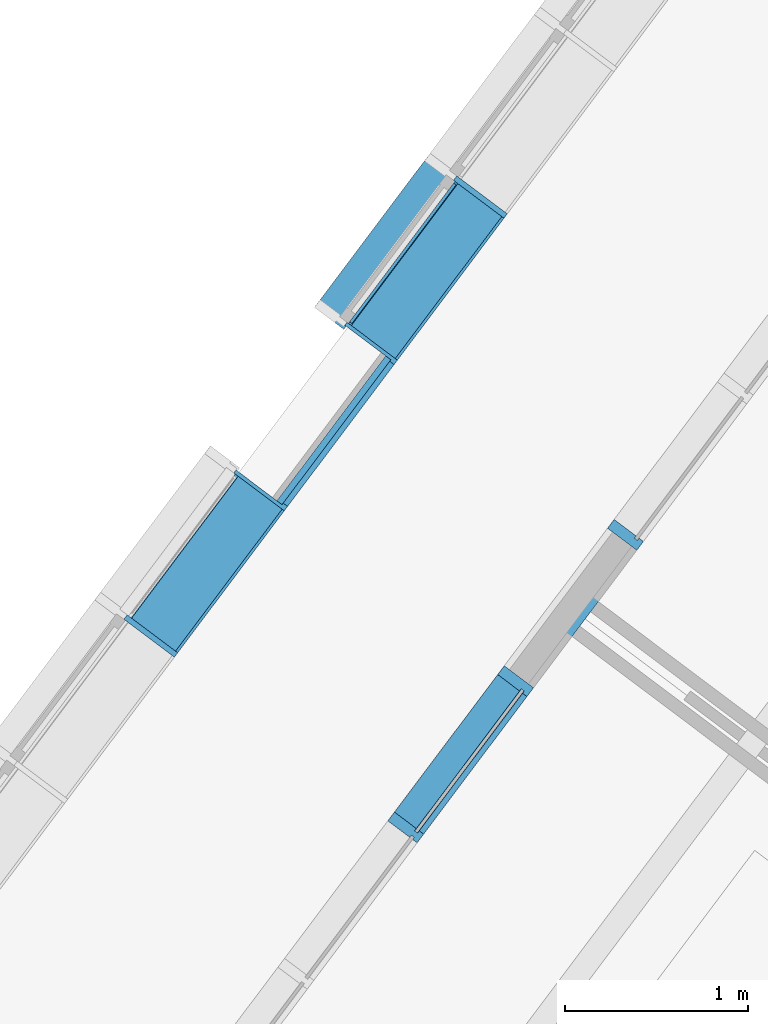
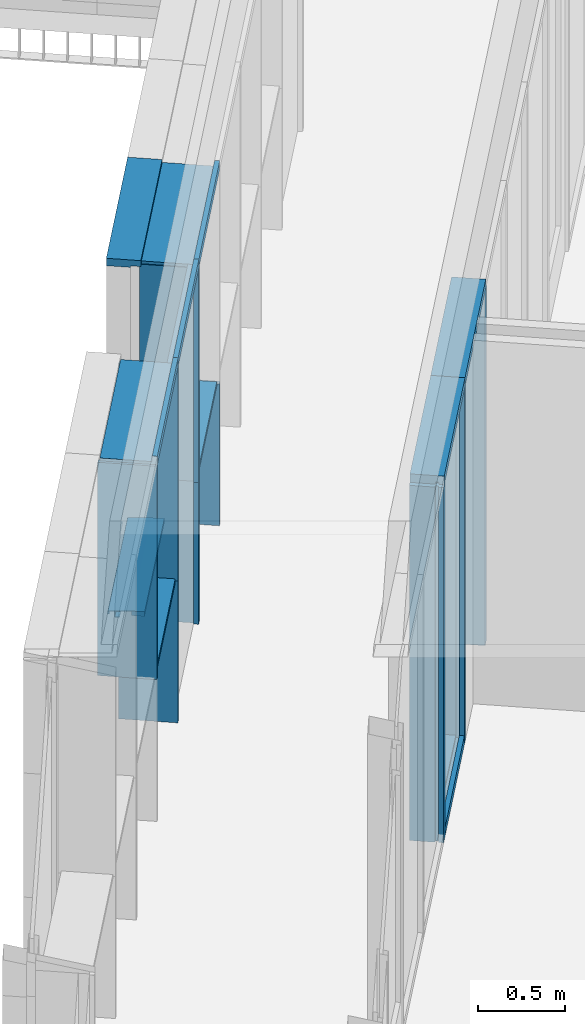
# One storey, part 47 of 243: 19 members, 3 elements without a shape of their own.
"""IFC2X3 building model written with IfcOpenShell, lengths in metres."""

from ifc_helpers import new_model, entity, si_unit, converted_unit, derived_unit, direction, frame, frame_2d, origin, place, context, subcontext, project, spatial, polyline, circle_curve, parameter, trimmed, segment, composite_curve, rectangle, outline, extrude, source, transform, mapped, material, type_object, type_shapes, element, aggregate, save


model = new_model("IFC2X3")

# Units and contexts
model_context = context("Model", 3, precision=1e-05, world=origin(), true_north=direction((6.123031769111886e-17, 1.0)))
body_context = subcontext(model_context, "Body", "Model", "MODEL_VIEW")
ifc_project = project(units=[si_unit("LENGTHUNIT", "METRE"), si_unit("AREAUNIT", "SQUARE_METRE"), si_unit("VOLUMEUNIT", "CUBIC_METRE"), converted_unit("PLANEANGLEUNIT", "DEGREE", entity("IfcRatioMeasure", 0.017453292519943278), si_unit("PLANEANGLEUNIT", "RADIAN"), dimensions=[0, 0, 0, 0, 0, 0, 0]), si_unit("MASSUNIT", "GRAM", prefix="KILO"), derived_unit("MASSDENSITYUNIT", [(si_unit("MASSUNIT", "GRAM", prefix="KILO"), 1), (si_unit("LENGTHUNIT", "METRE"), -3)]), derived_unit("IONCONCENTRATIONUNIT", [(si_unit("MASSUNIT", "GRAM", prefix="KILO"), 1), (si_unit("LENGTHUNIT", "METRE"), -3)]), derived_unit("MOMENTOFINERTIAUNIT", [(si_unit("LENGTHUNIT", "METRE"), 4)]), si_unit("TIMEUNIT", "SECOND"), si_unit("FREQUENCYUNIT", "HERTZ"), si_unit("THERMODYNAMICTEMPERATUREUNIT", "DEGREE_CELSIUS"), derived_unit("THERMALTRANSMITTANCEUNIT", [(si_unit("MASSUNIT", "GRAM", prefix="KILO"), 1), (si_unit("THERMODYNAMICTEMPERATUREUNIT", "KELVIN"), -1), (si_unit("TIMEUNIT", "SECOND"), -3)]), derived_unit("THERMALCONDUCTANCEUNIT", [(si_unit("MASSUNIT", "GRAM", prefix="KILO"), 1), (si_unit("THERMODYNAMICTEMPERATUREUNIT", "KELVIN"), -1), (si_unit("TIMEUNIT", "SECOND"), -3), (si_unit("LENGTHUNIT", "METRE"), 1)]), derived_unit("VOLUMETRICFLOWRATEUNIT", [(si_unit("LENGTHUNIT", "METRE"), 3), (si_unit("TIMEUNIT", "SECOND"), -1)]), derived_unit("MASSFLOWRATEUNIT", [(si_unit("MASSUNIT", "GRAM", prefix="KILO"), 1), (si_unit("TIMEUNIT", "SECOND"), -1)]), derived_unit("ROTATIONALFREQUENCYUNIT", [(si_unit("TIMEUNIT", "SECOND"), -1)]), si_unit("ELECTRICCURRENTUNIT", "AMPERE"), si_unit("ELECTRICVOLTAGEUNIT", "VOLT"), si_unit("POWERUNIT", "WATT"), si_unit("FORCEUNIT", "NEWTON", prefix="KILO"), si_unit("ILLUMINANCEUNIT", "LUX"), si_unit("LUMINOUSFLUXUNIT", "LUMEN"), si_unit("LUMINOUSINTENSITYUNIT", "CANDELA"), derived_unit("USERDEFINED", [(si_unit("MASSUNIT", "GRAM", prefix="KILO"), -1), (si_unit("LENGTHUNIT", "METRE"), -2), (si_unit("TIMEUNIT", "SECOND"), 3), (si_unit("LUMINOUSFLUXUNIT", "LUMEN"), 1)]), derived_unit("USERDEFINED", [(si_unit("MASSUNIT", "GRAM", prefix="KILO"), 1), (si_unit("TIMEUNIT", "SECOND"), -3), (si_unit("LENGTHUNIT", "METRE"), 3), (si_unit("ELECTRICCURRENTUNIT", "AMPERE"), -2)]), derived_unit("SOUNDPOWERUNIT", [(si_unit("MASSUNIT", "GRAM", prefix="KILO"), 1), (si_unit("TIMEUNIT", "SECOND"), -3), (si_unit("LENGTHUNIT", "METRE"), 2)]), derived_unit("SOUNDPRESSUREUNIT", [(si_unit("MASSUNIT", "GRAM", prefix="KILO"), 1), (si_unit("LENGTHUNIT", "METRE"), -1), (si_unit("TIMEUNIT", "SECOND"), -2)]), derived_unit("LINEARVELOCITYUNIT", [(si_unit("LENGTHUNIT", "METRE"), 1), (si_unit("TIMEUNIT", "SECOND"), -1)]), si_unit("PRESSUREUNIT", "PASCAL"), derived_unit("USERDEFINED", [(si_unit("MASSUNIT", "GRAM", prefix="KILO"), 1), (si_unit("LENGTHUNIT", "METRE"), -2), (si_unit("TIMEUNIT", "SECOND"), -2)]), derived_unit("LINEARFORCEUNIT", [(si_unit("MASSUNIT", "GRAM", prefix="KILO"), 1), (si_unit("TIMEUNIT", "SECOND"), -2)]), derived_unit("PLANARFORCEUNIT", [(si_unit("MASSUNIT", "GRAM", prefix="KILO"), 1), (si_unit("LENGTHUNIT", "METRE"), -1), (si_unit("TIMEUNIT", "SECOND"), -2)]), derived_unit("SPECIFICHEATCAPACITYUNIT", [(si_unit("THERMODYNAMICTEMPERATUREUNIT", "KELVIN"), -1), (si_unit("LENGTHUNIT", "METRE"), 2), (si_unit("TIMEUNIT", "SECOND"), -2)]), derived_unit("HEATINGVALUEUNIT", [(si_unit("LENGTHUNIT", "METRE"), 2), (si_unit("TIMEUNIT", "SECOND"), -2)]), derived_unit("VAPORPERMEABILITYUNIT", [(si_unit("LENGTHUNIT", "METRE"), -1), (si_unit("TIMEUNIT", "SECOND"), 1)]), derived_unit("DYNAMICVISCOSITYUNIT", [(si_unit("MASSUNIT", "GRAM", prefix="KILO"), 1), (si_unit("TIMEUNIT", "SECOND"), -1), (si_unit("LENGTHUNIT", "METRE"), -1)]), derived_unit("THERMALEXPANSIONCOEFFICIENTUNIT", [(si_unit("THERMODYNAMICTEMPERATUREUNIT", "KELVIN"), -1)]), derived_unit("MODULUSOFELASTICITYUNIT", [(si_unit("MASSUNIT", "GRAM", prefix="KILO"), 1), (si_unit("LENGTHUNIT", "METRE"), -1), (si_unit("TIMEUNIT", "SECOND"), -2)]), derived_unit("ISOTHERMALMOISTURECAPACITYUNIT", [(si_unit("LENGTHUNIT", "METRE"), 3), (si_unit("MASSUNIT", "GRAM", prefix="KILO"), -1)]), derived_unit("MOISTUREDIFFUSIVITYUNIT", [(si_unit("TIMEUNIT", "SECOND"), -1), (si_unit("LENGTHUNIT", "METRE"), 2)])], contexts=[model_context])

# Site, building, storey
site_placement = place(None, frame((0.0, 0.0, 235.0), z_axis=(0.0, 0.0, 1.0), x_axis=(-0.7996477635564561, 0.6004693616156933, 0.0)))
site = spatial("IfcSite", under=ifc_project, at=site_placement, Name="Default", CompositionType="ELEMENT")
building_placement = place(site_placement, origin())
building = spatial("IfcBuilding", under=site, at=building_placement, CompositionType="ELEMENT")
storey_placement = place(building_placement, origin())
storey = spatial("IfcBuildingStorey", under=building, at=storey_placement, Name="P0- Escola", CompositionType="ELEMENT", Elevation=0.0)

# Curtain wall, members
curtain_wall_type_1 = type_object("IfcCurtainWallType", Name="Muro cortina:MC- INT- a1", PredefinedType="NOTDEFINED")
curtain_wall_1_placement = place(storey_placement, origin())
curtain_wall_1 = element("IfcCurtainWall", 1, at=curtain_wall_1_placement, inside=storey, type_object=curtain_wall_type_1, Name="Muro cortina:MC- INT- a1", ObjectType="Muro cortina:MC- INT- a1")
ifc_material_1 = material(Name="_Fusta massisa- T1")
member_type_1 = type_object("IfcMemberType", Name="Montante rectangular:MC- Fusta- 20x6 cm- Esquerra", PredefinedType="MULLION", material=ifc_material_1)
shared_shape_1 = source(origin(), body_context, "Body", "SweptSolid", [
    extrude(outline(polyline([(-0.07000000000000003, -0.01875000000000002), (-0.04000000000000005, -0.01875000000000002), (-0.04000000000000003, -0.0037500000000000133), (-0.020000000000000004, -0.0037500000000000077), (-0.02, -0.018750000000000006), (0.13, -0.018749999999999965), (0.12999999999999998, 0.04125000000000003), (-0.06999999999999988, 0.04124999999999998), (-0.07000000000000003, -0.01875000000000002)])), frame((-0.01124999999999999, -0.03, -2.5050000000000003), z_axis=(0.0, 0.0, 1.0), x_axis=(0.0, -1.0, 0.0)), (0.0, 0.0, 1.0), 2.5050000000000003),
])
type_shapes(member_type_1, [shared_shape_1])
member_1_placement = place(curtain_wall_1_placement, frame((47.32014768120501, -29.415189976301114, 0.0), z_axis=(0.0, 0.0, -1.0), x_axis=(0.0, -1.0, 0.0)))
member_1 = element("IfcMember", 2, at=member_1_placement, type_object=member_type_1, material=ifc_material_1, Name="Montante rectangular:MC- Fusta- 20x6 cm- Esquerra", ObjectType="Montante rectangular:MC- Fusta- 20x6 cm- Esquerra", context=body_context, shape_type="MappedRepresentation", body=[
    mapped(shared_shape_1, transform((0.0, 0.0, 0.0), scale=1.0)),
])
member_type_2 = type_object("IfcMemberType", Name="Montante rectangular:MC- Fusta- 20x6 cm- Neutre", PredefinedType="MULLION", material=ifc_material_1)
shared_shape_2 = source(origin(), body_context, "Body", "SweptSolid", [
    extrude(rectangle(XDim=0.2, YDim=0.060000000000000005, at=frame_2d((-4.85722573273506e-17, -3.469446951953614e-18), x_axis=(1.0, 0.0))), frame((-0.03, -0.060000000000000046, -1.0), z_axis=(0.0, 0.0, 1.0), x_axis=(0.0, -1.0, 0.0)), (0.0, 0.0, 1.0), 0.9999999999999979),
])
type_shapes(member_type_2, [shared_shape_2])
member_2_placement = place(curtain_wall_1_placement, frame((47.32014768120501, -30.41518997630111, 2.565), z_axis=(0.0, -1.0, 0.0), x_axis=(0.0, 0.0, 1.0)))
member_2 = element("IfcMember", 3, at=member_2_placement, type_object=member_type_2, material=ifc_material_1, Name="Montante rectangular:MC- Fusta- 20x6 cm- Neutre", ObjectType="Montante rectangular:MC- Fusta- 20x6 cm- Neutre", context=body_context, shape_type="MappedRepresentation", body=[
    mapped(shared_shape_2, transform((0.0, 0.0, 0.0), scale=1.0)),
])
member_type_3 = type_object("IfcMemberType", Name="Montante rectangular:MC- Fusta- 20x6 cm- Dreta", PredefinedType="MULLION", material=ifc_material_1)
shared_shape_3 = source(origin(), body_context, "Body", "SweptSolid", [
    extrude(outline(polyline([(-0.07000000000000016, -0.041249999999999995), (0.13000000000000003, -0.041249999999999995), (0.13000000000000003, 0.01875), (-0.019999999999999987, 0.01875), (-0.019999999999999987, 0.00375), (-0.04000000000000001, 0.00375), (-0.03999999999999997, 0.01875), (-0.06999999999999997, 0.01875), (-0.07000000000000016, -0.041249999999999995)])), frame((0.011250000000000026, -0.02999999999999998, -2.5050000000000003), z_axis=(0.0, 0.0, 1.0), x_axis=(0.0, -1.0, 0.0)), (0.0, 0.0, 1.0), 2.5050000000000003),
])
type_shapes(member_type_3, [shared_shape_3])
member_3_placement = place(curtain_wall_1_placement, frame((47.32014768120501, -30.41518997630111, 0.0), z_axis=(0.0, 0.0, -1.0), x_axis=(0.0, -1.0, 0.0)))
member_3 = element("IfcMember", 4, at=member_3_placement, type_object=member_type_3, material=ifc_material_1, Name="Montante rectangular:MC- Fusta- 20x6 cm- Dreta", ObjectType="Montante rectangular:MC- Fusta- 20x6 cm- Dreta", context=body_context, shape_type="MappedRepresentation", body=[
    mapped(shared_shape_3, transform((0.0, 0.0, 0.0), scale=1.0)),
])
member_type_4 = type_object("IfcMemberType", Name="Montante rectangular:MC- Fusta- 20x6 cm- Esquerra", PredefinedType="MULLION", material=ifc_material_1)
shared_shape_4 = source(origin(), body_context, "Body", "SweptSolid", [
    extrude(outline(polyline([(-0.07000000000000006, -0.01875000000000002), (-0.04000000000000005, -0.01875000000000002), (-0.04000000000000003, -0.0037500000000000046), (-0.02, -0.0037500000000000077), (-0.019999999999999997, -0.018750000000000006), (0.13, -0.018749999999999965), (0.12999999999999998, 0.04125000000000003), (-0.06999999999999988, 0.04124999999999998), (-0.07000000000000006, -0.01875000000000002)])), frame((-0.041249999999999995, -0.029999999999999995, -1.0), z_axis=(0.0, 0.0, 1.0), x_axis=(0.0, -1.0, 0.0)), (0.0, 0.0, 1.0), 0.9999999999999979),
])
type_shapes(member_type_4, [shared_shape_4])
member_4_placement = place(curtain_wall_1_placement, frame((47.32014768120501, -29.415189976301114, 2.565), z_axis=(0.0, -1.0, 0.0), x_axis=(0.0, 0.0, 1.0)))
member_4 = element("IfcMember", 5, at=member_4_placement, type_object=member_type_4, material=ifc_material_1, Name="Montante rectangular:MC- Fusta- 20x6 cm- Esquerra", ObjectType="Montante rectangular:MC- Fusta- 20x6 cm- Esquerra", context=body_context, shape_type="MappedRepresentation", body=[
    mapped(shared_shape_4, transform((0.0, 0.0, 0.0), scale=1.0)),
])
member_type_5 = type_object("IfcMemberType", Name="Montante rectangular:MC- Fusta- 20x6 cm- Centre", PredefinedType="MULLION", material=ifc_material_1)
shared_shape_5 = source(origin(), body_context, "Body", "SweptSolid", [
    extrude(outline(polyline([(-0.06000000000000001, -0.030000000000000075), (-0.03, -0.030000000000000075), (-0.029999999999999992, -0.015000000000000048), (-0.009999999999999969, -0.01499999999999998), (-0.009999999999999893, -0.030000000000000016), (0.14000000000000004, -0.029999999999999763), (0.13999999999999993, 0.030000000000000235), (-0.010000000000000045, 0.02999999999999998), (-0.01000000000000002, 0.014999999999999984), (-0.030000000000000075, 0.014999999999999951), (-0.03000000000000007, 0.029999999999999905), (-0.059999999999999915, 0.029999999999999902), (-0.06000000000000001, -0.030000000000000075)])), frame((0.0, -0.019999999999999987, -2.505000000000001), z_axis=(0.0, 0.0, 1.0), x_axis=(0.0, -1.0, 0.0)), (0.0, 0.0, 1.0), 2.5050000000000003),
])
type_shapes(member_type_5, [shared_shape_5])
member_5_placement = place(curtain_wall_1_placement, frame((47.32014768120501, -28.415189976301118, 0.0), z_axis=(0.0, 0.0, -1.0), x_axis=(0.0, -1.0, 0.0)))
member_5 = element("IfcMember", 6, at=member_5_placement, type_object=member_type_5, material=ifc_material_1, Name="Montante rectangular:MC- Fusta- 20x6 cm- Centre", ObjectType="Montante rectangular:MC- Fusta- 20x6 cm- Centre", context=body_context, shape_type="MappedRepresentation", body=[
    mapped(shared_shape_5, transform((0.0, 0.0, 0.0), scale=1.0)),
])
member_type_6 = type_object("IfcMemberType", Name="Montante rectangular:MC- Fusta- 20x6 cm- Inferior", PredefinedType="MULLION", material=ifc_material_1)
shared_shape_6 = source(origin(), body_context, "Body", "SweptSolid", [
    extrude(outline(polyline([(-0.06999999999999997, -0.018750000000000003), (-0.039999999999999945, -0.018750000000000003), (-0.03999999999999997, -0.003750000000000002), (-0.019999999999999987, -0.0037500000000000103), (-0.019999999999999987, -0.018750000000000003), (0.13000000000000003, -0.018750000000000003), (0.13000000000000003, 0.041249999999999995), (-0.07000000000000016, 0.041249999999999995), (-0.06999999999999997, -0.018750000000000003)])), frame((-0.041249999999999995, -0.02999999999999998, -0.9399999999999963), z_axis=(0.0, 0.0, 1.0), x_axis=(0.0, -1.0, 0.0)), (0.0, 0.0, 1.0), 0.9399999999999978),
])
type_shapes(member_type_6, [shared_shape_6])
member_6_placement = place(curtain_wall_1_placement, frame((47.32014768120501, -28.44518997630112, 0.0), z_axis=(0.0, 1.0, 0.0), x_axis=(0.0, 0.0, -1.0)))
member_6 = element("IfcMember", 7, at=member_6_placement, type_object=member_type_6, material=ifc_material_1, Name="Montante rectangular:MC- Fusta- 20x6 cm- Inferior", ObjectType="Montante rectangular:MC- Fusta- 20x6 cm- Inferior", context=body_context, shape_type="MappedRepresentation", body=[
    mapped(shared_shape_6, transform((0.0, 0.0, 0.0), scale=1.0)),
])
aggregate(curtain_wall_1, [member_2, member_3, member_4, member_1, member_5, member_6])

curtain_wall_type_2 = type_object("IfcCurtainWallType", Name="Muro cortina:MC- INT- k2", PredefinedType="NOTDEFINED")
curtain_wall_2_placement = place(storey_placement, origin())
curtain_wall_2 = element("IfcCurtainWall", 8, at=curtain_wall_2_placement, inside=storey, type_object=curtain_wall_type_2, Name="Muro cortina:MC- INT- k2", ObjectType="Muro cortina:MC- INT- k2")
member_type_7 = type_object("IfcMemberType", Name="Montante rectangular:MC- Fusta- 35x3 cm- Pati aules- Remat superior", PredefinedType="MULLION", material=ifc_material_1)
shared_shape_7 = source(origin(), body_context, "Body", "SweptSolid", [
    extrude(outline(polyline([(-0.12166666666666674, -0.02666666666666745), (0.21333333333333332, -0.02666666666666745), (0.2133333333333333, -0.006666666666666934), (-0.09166666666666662, -0.006666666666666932), (-0.09166666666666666, 0.03333333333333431), (-0.12166666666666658, 0.03333333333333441), (-0.12166666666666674, -0.02666666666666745)])), frame((-0.033333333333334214, -0.026666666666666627, -1.0), z_axis=(0.0, 0.0, 1.0), x_axis=(0.0, -1.0, 0.0)), (0.0, 0.0, 1.0), 0.9999999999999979),
])
type_shapes(member_type_7, [shared_shape_7])
member_7_placement = place(curtain_wall_2_placement, frame((49.04514768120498, -31.41519175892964, 2.565), z_axis=(0.0, -1.0, 0.0), x_axis=(0.0, 0.0, 1.0)))
member_7 = element("IfcMember", 9, at=member_7_placement, type_object=member_type_7, material=ifc_material_1, Name="Montante rectangular:MC- Fusta- 35x3 cm- Pati aules- Remat superior", ObjectType="Montante rectangular:MC- Fusta- 35x3 cm- Pati aules- Remat superior", context=body_context, shape_type="MappedRepresentation", body=[
    mapped(shared_shape_7, transform((0.0, 0.0, 0.0), scale=1.0)),
])
member_type_8 = type_object("IfcMemberType", Name="Montante rectangular:MC- Fusta- 35x3 cm- Centre", PredefinedType="MULLION", material=ifc_material_1)
shared_shape_8 = source(origin(), body_context, "Body", "SweptSolid", [
    extrude(rectangle(XDim=0.3450000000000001, YDim=0.030000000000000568, at=frame_2d((0.0, -1.3964523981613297e-16), x_axis=(1.0, 0.0))), frame((0.0, -0.07750000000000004, -1.0), z_axis=(0.0, 0.0, 1.0), x_axis=(0.0, -1.0, 0.0)), (0.0, 0.0, 1.0), 1.0),
])
type_shapes(member_type_8, [shared_shape_8])
member_8_placement = place(curtain_wall_2_placement, frame((49.04514768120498, -31.41519175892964, 0.0), z_axis=(0.0, 0.0, -1.0), x_axis=(0.0, -1.0, 0.0)))
member_8 = element("IfcMember", 10, at=member_8_placement, type_object=member_type_8, material=ifc_material_1, Name="Montante rectangular:MC- Fusta- 35x3 cm- Centre", ObjectType="Montante rectangular:MC- Fusta- 35x3 cm- Centre", context=body_context, shape_type="MappedRepresentation", body=[
    mapped(shared_shape_8, transform((0.0, 0.0, 0.0), scale=1.0)),
])
member_type_9 = type_object("IfcMemberType", Name="Montante rectangular:MC- Fusta- 35x3 cm- Pati aules- Remat superior", PredefinedType="MULLION", material=ifc_material_1)
shared_shape_9 = source(origin(), body_context, "Body", "SweptSolid", [
    extrude(outline(polyline([(-0.12166666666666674, -0.02666666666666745), (0.21333333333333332, -0.02666666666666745), (0.2133333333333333, -0.006666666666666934), (-0.09166666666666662, -0.006666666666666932), (-0.09166666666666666, 0.03333333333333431), (-0.12166666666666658, 0.03333333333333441), (-0.12166666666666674, -0.02666666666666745)])), frame((-0.033333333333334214, -0.026666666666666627, -1.0), z_axis=(0.0, 0.0, 1.0), x_axis=(0.0, -1.0, 0.0)), (0.0, 0.0, 1.0), 0.9999999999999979),
])
type_shapes(member_type_9, [shared_shape_9])
member_9_placement = place(curtain_wall_2_placement, frame((49.04514768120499, -29.415191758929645, 2.565), z_axis=(0.0, -1.0, 0.0), x_axis=(0.0, 0.0, 1.0)))
member_9 = element("IfcMember", 11, at=member_9_placement, type_object=member_type_9, material=ifc_material_1, Name="Montante rectangular:MC- Fusta- 35x3 cm- Pati aules- Remat superior", ObjectType="Montante rectangular:MC- Fusta- 35x3 cm- Pati aules- Remat superior", context=body_context, shape_type="MappedRepresentation", body=[
    mapped(shared_shape_9, transform((0.0, 0.0, 0.0), scale=1.0)),
])
member_type_10 = type_object("IfcMemberType", Name="Montante rectangular:MC- Fusta- 35x3 cm- Pati aules- Remat dreta", PredefinedType="MULLION", material=ifc_material_1)
shared_shape_10 = source(origin(), body_context, "Body", "SweptSolid", [
    extrude(outline(polyline([(-0.12500000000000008, -0.01666666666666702), (0.22, -0.01666666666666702), (0.22000000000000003, 0.003333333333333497), (-0.09499999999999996, 0.003333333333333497), (-0.09499999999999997, 0.013333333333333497), (-0.12500000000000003, 0.013333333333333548), (-0.12500000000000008, -0.01666666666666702)])), frame((0.00166666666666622, -0.03000000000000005, -1.0), z_axis=(0.0, 0.0, 1.0), x_axis=(0.0, -1.0, 0.0)), (0.0, 0.0, 1.0), 1.0),
])
type_shapes(member_type_10, [shared_shape_10])
member_10_placement = place(curtain_wall_2_placement, frame((49.04514768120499, -29.415191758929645, 0.0), z_axis=(0.0, 0.0, -1.0), x_axis=(0.0, -1.0, 0.0)))
member_10 = element("IfcMember", 12, at=member_10_placement, type_object=member_type_10, material=ifc_material_1, Name="Montante rectangular:MC- Fusta- 35x3 cm- Pati aules- Remat dreta", ObjectType="Montante rectangular:MC- Fusta- 35x3 cm- Pati aules- Remat dreta", context=body_context, shape_type="MappedRepresentation", body=[
    mapped(shared_shape_10, transform((0.0, 0.0, 0.0), scale=1.0)),
])
member_type_11 = type_object("IfcMemberType", Name="Montante rectangular:MC- Fusta- 35x3 cm- Pati aules- Remat superior pilar", PredefinedType="MULLION", material=ifc_material_1)
shared_shape_11 = source(origin(), body_context, "Body", "SweptSolid", [
    extrude(outline(polyline([(-0.03166666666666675, -0.02666666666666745), (0.03333333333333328, -0.02666666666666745), (0.03333333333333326, -0.00666666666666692), (-0.0016666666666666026, -0.006666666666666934), (-0.0016666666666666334, 0.03333333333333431), (-0.03166666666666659, 0.03333333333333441), (-0.03166666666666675, -0.02666666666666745)])), frame((-0.03333333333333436, 0.06333333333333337, -1.0), z_axis=(0.0, 0.0, 1.0), x_axis=(0.0, -1.0, 0.0)), (0.0, 0.0, 1.0), 0.9999999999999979),
])
type_shapes(member_type_11, [shared_shape_11])
member_11_placement = place(curtain_wall_2_placement, frame((49.04514768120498, -30.41519175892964, 2.565), z_axis=(0.0, -1.0, 0.0), x_axis=(0.0, 0.0, 1.0)))
member_11 = element("IfcMember", 13, at=member_11_placement, type_object=member_type_11, material=ifc_material_1, Name="Montante rectangular:MC- Fusta- 35x3 cm- Pati aules- Remat superior pilar", ObjectType="Montante rectangular:MC- Fusta- 35x3 cm- Pati aules- Remat superior pilar", context=body_context, shape_type="MappedRepresentation", body=[
    mapped(shared_shape_11, transform((0.0, 0.0, 0.0), scale=1.0)),
])
member_type_12 = type_object("IfcMemberType", Name="Montante rectangular:MC- Fusta- 35x3 cm- Pati aules- Remat esquerra", PredefinedType="MULLION", material=ifc_material_1)
shared_shape_12 = source(origin(), body_context, "Body", "SweptSolid", [
    extrude(outline(polyline([(-0.12500000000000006, -0.013333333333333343), (-0.09500000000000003, -0.013333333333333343), (-0.09499999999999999, -0.0033333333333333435), (0.22000000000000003, -0.003333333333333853), (0.22000000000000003, 0.016666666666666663), (-0.12500000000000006, 0.01666666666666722), (-0.12500000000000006, -0.013333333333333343)])), frame((-0.00166666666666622, -0.03000000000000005, -1.0), z_axis=(0.0, 0.0, 1.0), x_axis=(0.0, -1.0, 0.0)), (0.0, 0.0, 1.0), 1.0),
])
type_shapes(member_type_12, [shared_shape_12])
member_12_placement = place(curtain_wall_2_placement, frame((49.04514768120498, -30.41519175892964, 0.0), z_axis=(0.0, 0.0, -1.0), x_axis=(0.0, -1.0, 0.0)))
member_12 = element("IfcMember", 14, at=member_12_placement, type_object=member_type_12, material=ifc_material_1, Name="Montante rectangular:MC- Fusta- 35x3 cm- Pati aules- Remat esquerra", ObjectType="Montante rectangular:MC- Fusta- 35x3 cm- Pati aules- Remat esquerra", context=body_context, shape_type="MappedRepresentation", body=[
    mapped(shared_shape_12, transform((0.0, 0.0, 0.0), scale=1.0)),
])
member_type_13 = type_object("IfcMemberType", Name="Montante rectangular:MC- Fusta- 35x3 cm- Pati aules- Prestatge", PredefinedType="MULLION", material=ifc_material_1)
shared_shape_13 = source(origin(), body_context, "Body", "SweptSolid", [
    extrude(rectangle(XDim=0.30000000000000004, YDim=0.03000000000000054, at=frame_2d((0.0, -1.231653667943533e-16), x_axis=(1.0, 0.0))), frame((0.0, -0.07000000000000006, -0.9699999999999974), z_axis=(0.0, 0.0, 1.0), x_axis=(0.0, -1.0, 0.0)), (0.0, 0.0, 1.0), 0.969999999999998),
])
type_shapes(member_type_13, [shared_shape_13])
member_13_placement = place(curtain_wall_2_placement, frame((49.04514768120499, -29.400191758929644, 1.0), z_axis=(0.0, -1.0, 0.0), x_axis=(0.0, 0.0, 1.0)))
member_13 = element("IfcMember", 15, at=member_13_placement, type_object=member_type_13, material=ifc_material_1, Name="Montante rectangular:MC- Fusta- 35x3 cm- Pati aules- Prestatge", ObjectType="Montante rectangular:MC- Fusta- 35x3 cm- Pati aules- Prestatge", context=body_context, shape_type="MappedRepresentation", body=[
    mapped(shared_shape_13, transform((0.0, 0.0, 0.0), scale=1.0)),
])
member_14_placement = place(curtain_wall_2_placement, frame((49.04514768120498, -31.400191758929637, 1.0), z_axis=(0.0, -1.0, 0.0), x_axis=(0.0, 0.0, 1.0)))
member_14 = element("IfcMember", 16, at=member_14_placement, type_object=member_type_13, material=ifc_material_1, Name="Montante rectangular:MC- Fusta- 35x3 cm- Pati aules- Prestatge", ObjectType="Montante rectangular:MC- Fusta- 35x3 cm- Pati aules- Prestatge", context=body_context, shape_type="MappedRepresentation", body=[
    mapped(shared_shape_13, transform((0.0, 0.0, 0.0), scale=1.0)),
])
member_type_14 = type_object("IfcMemberType", Name="Montante rectangular:MC- Fusta- 35x3 cm- Centre", PredefinedType="MULLION", material=ifc_material_1)
shared_shape_14 = source(origin(), body_context, "Body", "SweptSolid", [
    extrude(rectangle(XDim=0.3450000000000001, YDim=0.030000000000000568, at=frame_2d((0.0, -1.3964523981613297e-16), x_axis=(1.0, 0.0))), frame((0.0, -0.07750000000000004, -1.504999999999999), z_axis=(0.0, 0.0, 1.0), x_axis=(0.0, -1.0, 0.0)), (0.0, 0.0, 1.0), 1.504999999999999),
])
type_shapes(member_type_14, [shared_shape_14])
member_15_placement = place(curtain_wall_2_placement, frame((49.04514768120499, -28.415191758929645, 1.0), z_axis=(0.0, 0.0, -1.0), x_axis=(0.0, -1.0, 0.0)))
member_15 = element("IfcMember", 17, at=member_15_placement, type_object=member_type_14, material=ifc_material_1, Name="Montante rectangular:MC- Fusta- 35x3 cm- Centre", ObjectType="Montante rectangular:MC- Fusta- 35x3 cm- Centre", context=body_context, shape_type="MappedRepresentation", body=[
    mapped(shared_shape_14, transform((0.0, 0.0, 0.0), scale=1.0)),
])
member_type_15 = type_object("IfcMemberType", Name="Montante rectangular:MC- Fusta- 35x3 cm- Pati aules- Remat dreta", PredefinedType="MULLION", material=ifc_material_1)
shared_shape_15 = source(origin(), body_context, "Body", "SweptSolid", [
    extrude(outline(polyline([(-0.12500000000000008, -0.01666666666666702), (0.22, -0.01666666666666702), (0.22000000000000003, 0.003333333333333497), (-0.09499999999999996, 0.003333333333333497), (-0.09499999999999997, 0.013333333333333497), (-0.12500000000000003, 0.013333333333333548), (-0.12500000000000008, -0.01666666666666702)])), frame((0.00166666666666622, -0.03000000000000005, -1.504999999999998), z_axis=(0.0, 0.0, 1.0), x_axis=(0.0, -1.0, 0.0)), (0.0, 0.0, 1.0), 1.504999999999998),
])
type_shapes(member_type_15, [shared_shape_15])
member_16_placement = place(curtain_wall_2_placement, frame((49.04514768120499, -29.415191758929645, 1.0), z_axis=(0.0, 0.0, -1.0), x_axis=(0.0, -1.0, 0.0)))
member_16 = element("IfcMember", 18, at=member_16_placement, type_object=member_type_15, material=ifc_material_1, Name="Montante rectangular:MC- Fusta- 35x3 cm- Pati aules- Remat dreta", ObjectType="Montante rectangular:MC- Fusta- 35x3 cm- Pati aules- Remat dreta", context=body_context, shape_type="MappedRepresentation", body=[
    mapped(shared_shape_15, transform((0.0, 0.0, 0.0), scale=1.0)),
])
member_type_16 = type_object("IfcMemberType", Name="Montante rectangular:MC- Fusta- 35x3 cm- Pati aules- Remat esquerra", PredefinedType="MULLION", material=ifc_material_1)
shared_shape_16 = source(origin(), body_context, "Body", "SweptSolid", [
    extrude(outline(polyline([(-0.12500000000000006, -0.013333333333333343), (-0.09500000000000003, -0.013333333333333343), (-0.09499999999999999, -0.0033333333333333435), (0.22000000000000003, -0.003333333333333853), (0.22000000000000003, 0.016666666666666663), (-0.12500000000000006, 0.01666666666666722), (-0.12500000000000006, -0.013333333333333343)])), frame((-0.00166666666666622, -0.03000000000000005, -1.504999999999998), z_axis=(0.0, 0.0, 1.0), x_axis=(0.0, -1.0, 0.0)), (0.0, 0.0, 1.0), 1.504999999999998),
])
type_shapes(member_type_16, [shared_shape_16])
member_17_placement = place(curtain_wall_2_placement, frame((49.04514768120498, -30.41519175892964, 1.0), z_axis=(0.0, 0.0, -1.0), x_axis=(0.0, -1.0, 0.0)))
member_17 = element("IfcMember", 19, at=member_17_placement, type_object=member_type_16, material=ifc_material_1, Name="Montante rectangular:MC- Fusta- 35x3 cm- Pati aules- Remat esquerra", ObjectType="Montante rectangular:MC- Fusta- 35x3 cm- Pati aules- Remat esquerra", context=body_context, shape_type="MappedRepresentation", body=[
    mapped(shared_shape_16, transform((0.0, 0.0, 0.0), scale=1.0)),
])
aggregate(curtain_wall_2, [member_9, member_10, member_11, member_12, member_7, member_8, member_13, member_14, member_15, member_16, member_17])

curtain_wall_type_3 = type_object("IfcCurtainWallType", Name="Muro cortina:MC- EXT- MC5", PredefinedType="NOTDEFINED")
curtain_wall_3_placement = place(storey_placement, origin())
curtain_wall_3 = element("IfcCurtainWall", 20, at=curtain_wall_3_placement, inside=storey, type_object=curtain_wall_type_3, Name="Muro cortina:MC- EXT- MC5", ObjectType="Muro cortina:MC- EXT- MC5")
ifc_material_2 = material(Name="_Alumini- T1- Perfil")
member_type_17 = type_object("IfcMemberType", Name="Montante rectangular:MC- Alu- 140x52,5 cm- Fa patis- inferior", PredefinedType="MULLION", material=ifc_material_2)
shared_shape_17 = source(origin(), body_context, "Body", "SweptSolid", [
    extrude(outline(composite_curve([segment(polyline([(-0.144167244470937, -0.02586710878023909), (-0.12786724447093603, -0.025867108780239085)]), True, "CONTINUOUS"), segment(polyline([(-0.12786724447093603, -0.025867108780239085), (-0.12786724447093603, -0.02316710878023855)]), True, "CONTINUOUS"), segment(polyline([(-0.12786724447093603, -0.02316710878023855), (-0.0678672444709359, -0.02316710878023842)]), True, "CONTINUOUS"), segment(polyline([(-0.0678672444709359, -0.02316710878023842), (0.07031215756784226, -0.010722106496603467)]), True, "CONTINUOUS"), segment(trimmed(circle_curve(frame_2d((0.07013275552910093, -0.008730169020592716), x_axis=(0.0897010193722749, -0.9959687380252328)), 0.0019999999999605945), [parameter(0.0)], [parameter(84.8535928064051)], True, "PARAMETER"), True, "CONTINUOUS"), segment(polyline([(0.07213275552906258, -0.00873016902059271), (0.07213275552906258, 0.0062663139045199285)]), True, "CONTINUOUS"), segment(trimmed(circle_curve(frame_2d((0.070132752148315, 0.006266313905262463), x_axis=(1.0, 0.0)), 0.002000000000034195), [parameter(0.0)], [parameter(90.00000002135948)], True, "PARAMETER"), True, "CONTINUOUS"), segment(polyline([(0.070132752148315, 0.00826631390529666), (0.06213275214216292, 0.008266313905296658)]), True, "CONTINUOUS"), segment(polyline([(0.06213275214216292, 0.008266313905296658), (0.06213275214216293, 0.006266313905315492)]), True, "CONTINUOUS"), segment(polyline([(0.06213275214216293, 0.006266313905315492), (0.06963275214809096, 0.006266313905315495)]), True, "CONTINUOUS"), segment(trimmed(circle_curve(frame_2d((0.06963275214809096, 0.005766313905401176), x_axis=(0.0, 1.0)), 0.0004999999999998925), [parameter(269.99999999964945)], [parameter(0.0)], True, "PARAMETER"), False, "CONTINUOUS"), segment(polyline([(0.07013275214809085, 0.0057663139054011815), (0.07013275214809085, -0.008730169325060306)]), True, "CONTINUOUS"), segment(polyline([(0.07013275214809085, -0.008730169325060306), (0.03213275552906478, -0.012152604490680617)]), True, "CONTINUOUS"), segment(polyline([(0.03213275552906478, -0.012152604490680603), (0.03213275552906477, 0.02913289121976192)]), True, "CONTINUOUS"), segment(polyline([(0.03213275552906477, 0.02913289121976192), (0.0021327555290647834, 0.02913289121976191)]), True, "CONTINUOUS"), segment(polyline([(0.0021327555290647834, 0.02913289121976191), (0.0021327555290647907, 0.027132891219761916)]), True, "CONTINUOUS"), segment(polyline([(0.0021327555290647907, 0.027132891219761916), (0.03013275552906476, 0.027132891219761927)]), True, "CONTINUOUS"), segment(polyline([(0.03013275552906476, 0.02713289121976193), (0.03013275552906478, -0.012332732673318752)]), True, "CONTINUOUS"), segment(polyline([(0.03013275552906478, -0.012332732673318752), (-0.06786724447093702, -0.021159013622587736)]), True, "CONTINUOUS"), segment(polyline([(-0.06786724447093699, -0.021159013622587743), (-0.067867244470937, 0.0091328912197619)]), True, "CONTINUOUS"), segment(polyline([(-0.06786724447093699, 0.0091328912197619), (-0.14416724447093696, 0.009132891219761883)]), True, "CONTINUOUS"), segment(polyline([(-0.14416724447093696, 0.009132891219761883), (-0.144167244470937, -0.02586710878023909)]), True, "CONTINUOUS")], self_intersect=False)), frame((-0.029132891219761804, -0.06786724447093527, -0.9474999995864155), z_axis=(0.0, 0.0, 1.0), x_axis=(0.0, -1.0, 0.0)), (0.0, 0.0, 1.0), 0.9474999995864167),
])
type_shapes(member_type_17, [shared_shape_17])
member_18_placement = place(curtain_wall_3_placement, frame((49.34514768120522, -30.441441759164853, -0.02), z_axis=(0.0, 1.0, 0.0), x_axis=(0.0, 0.0, -1.0)))
member_18 = element("IfcMember", 21, at=member_18_placement, type_object=member_type_17, material=ifc_material_2, Name="Montante rectangular:MC- Alu- 140x52,5 cm- Fa patis- inferior", ObjectType="Montante rectangular:MC- Alu- 140x52,5 cm- Fa patis- inferior", context=body_context, shape_type="MappedRepresentation", body=[
    mapped(shared_shape_17, transform((0.0, 0.0, 0.0), scale=1.0)),
])
member_type_18 = type_object("IfcMemberType", Name="Montante rectangular:MC- Alu- 140x52,5 cm- Fa patis- Superior", PredefinedType="MULLION", material=ifc_material_2)
shared_shape_18 = source(origin(), body_context, "Body", "SweptSolid", [
    extrude(outline(polyline([(-0.026333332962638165, -0.021249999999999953), (0.11366666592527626, -0.021249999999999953), (0.11366666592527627, 0.031250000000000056), (-0.08733333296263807, 0.03125000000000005), (-0.0873333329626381, -0.010000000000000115), (-0.026333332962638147, -0.010000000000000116), (-0.026333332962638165, -0.021249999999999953)])), frame((-0.031250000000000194, -0.02733333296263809, -1.0262500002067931), z_axis=(0.0, 0.0, 1.0), x_axis=(0.0, -1.0, 0.0)), (0.0, 0.0, 1.0), 1.0262500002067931),
])
type_shapes(member_type_18, [shared_shape_18])
member_19_placement = place(curtain_wall_3_placement, frame((49.34514768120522, -31.41519175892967, 2.545), z_axis=(0.0, -1.0, 0.0), x_axis=(0.0, 0.0, 1.0)))
member_19 = element("IfcMember", 22, at=member_19_placement, type_object=member_type_18, material=ifc_material_2, Name="Montante rectangular:MC- Alu- 140x52,5 cm- Fa patis- Superior", ObjectType="Montante rectangular:MC- Alu- 140x52,5 cm- Fa patis- Superior", context=body_context, shape_type="MappedRepresentation", body=[
    mapped(shared_shape_18, transform((0.0, 0.0, 0.0), scale=1.0)),
])
aggregate(curtain_wall_3, [member_19, member_18])

save(model, "model.ifc")
